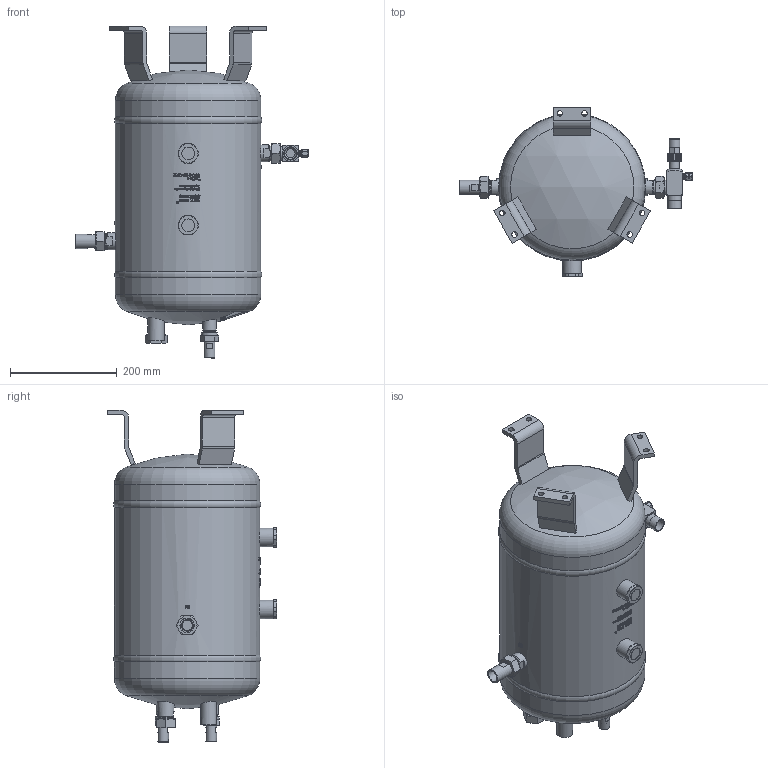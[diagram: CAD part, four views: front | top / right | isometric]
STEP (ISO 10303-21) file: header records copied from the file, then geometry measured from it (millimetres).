
FILE_DESCRIPTION(/* description */ (''),/* implementation_level */ '2;1');
FILE_NAME(/* name */ 'P:\SGS\SGS-21W-CDM\SGS-21W-CDM.stp',/* time_stamp */ '2017-08-14T15:04:33+02:00',/* author */ ('goerner'),/* organization */ (''),/* preprocessor_version */ 'ST-DEVELOPER v16.1',/* originating_system */ 'Autodesk Inventor 2016',/* authorisation */ '');
FILE_SCHEMA (('AUTOMOTIVE_DESIGN { 1 0 10303 214 3 1 1 }'));
Length unit declared in the file: millimetre
Products named in the file (5): SGS-21W-CDM_Rev.1_AG-Kunde; RAV-1_1_4-22-CDM_AG-Kunde; LD-1_1_4; BK_1_1_4; SGS-21W-CDM_Rev.1_AG-Kunde_1
Assembly tree (4 placements, depth 2):
  SGS-21W-CDM_Rev.1_AG-Kunde_1
    SGS-21W-CDM_Rev.1_AG-Kunde
    RAV-1_1_4-22-CDM_AG-Kunde
    LD-1_1_4
    BK_1_1_4
Bounding box: 436.35 x 318 x 622.68 mm (x, y, z)
Volume: 26323491 mm3; surface area: 623244.5 mm2
Topology: 7 solids, 18 shells, 2848 faces, 7567 edges, 5004 vertices
Faces by surface type: plane 1366, bspline 921, cylinder 315, cone 146, sphere 91, torus 9
Full cylindrical faces by diameter (mm): 4 x1, 5 x1, 6.5 x1, 9 x2, 9.4 x1, 10.1 x1, 10.5 x6, 10.72 x1, 11 x1, 13.3 x2, 13.5 x2, 14 x1, 15.75 x2, 15.87 x2, 16.2 x2, 17 x2, 18.631 x1, 19 x5, 20 x2, 20.1 x2, 20.131 x1, 20.5 x2, 22 x2, 22.1 x3, 22.22 x3, 22.3 x1, 22.4 x1, 22.5 x2, 23 x1, 23.2 x3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
Entity records: 106393 total; most frequent: CARTESIAN_POINT 40688, ORIENTED_EDGE 14744, DIRECTION 11346, EDGE_CURVE 7371, VERTEX_POINT 4958, AXIS2_PLACEMENT_3D 4211, EDGE_LOOP 3275, LINE 2924
